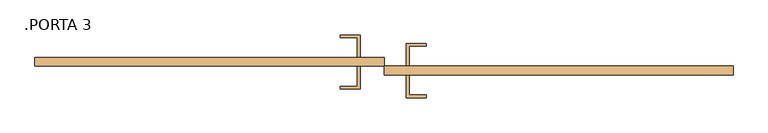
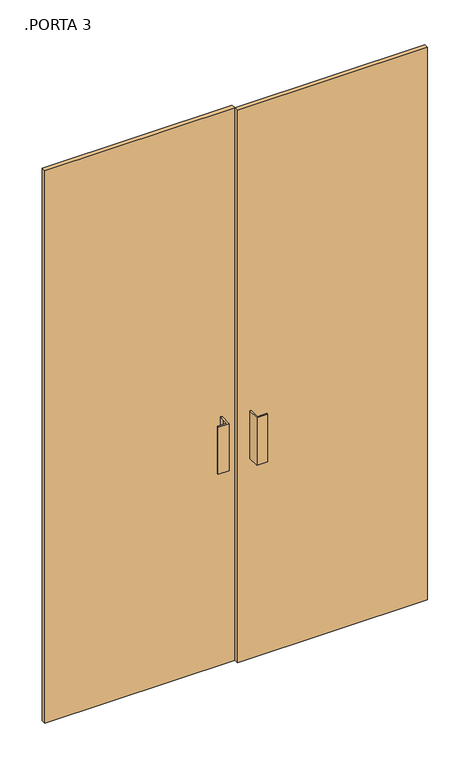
"""IFC4 building model written with IfcOpenShell, lengths in millimetres: door geometry, Parede cortina com vidro duplo CORRER : .PORTA 3."""

from ifc_helpers import new_model, si_unit, frame, origin, origin_with_axes, place, context, project, spatial, polyline, outline, extrude, source, transform, mapped, element, save


def porta_3_b58ad5ef(model_context):
    return source(origin(), model_context, "Body", "SweptSolid", [
        extrude(outline(polyline([(-771.8247711, 69.05), (1.5875, 69.05), (1.5875, 50.0), (-771.8247711, 50.0), (-771.8247711, 69.05)])), origin_with_axes(), (0.0, 0.0, 1.0), 2375.0),
        extrude(outline(polyline([(774.9997711, 30.95), (1.5875, 30.95), (1.5875, 50.0), (774.9997711, 50.0), (774.9997711, 30.95)])), origin_with_axes(), (0.0, 0.0, 1.0), 2375.0),
        extrude(outline(polyline([(-50.8, 119.85), (-50.8, 69.05), (-57.15, 69.05), (-57.15, 113.5), (-95.25, 113.5), (-95.25, 119.85), (-50.8, 119.85)])), frame((0.0, 0.0, 863.6), z_axis=(0.0, 0.0, 1.0), x_axis=(1.0, 0.0, 0.0)), (0.0, 0.0, 1.0), 203.2),
        extrude(outline(polyline([(50.8, 100.8), (95.25, 100.8), (95.25, 94.45), (57.15, 94.45), (57.15, 50.0), (50.8, 50.0), (50.8, 100.8)])), frame((0.0, 0.0, 863.6), z_axis=(0.0, 0.0, 1.0), x_axis=(1.0, 0.0, 0.0)), (0.0, 0.0, 1.0), 203.2),
        extrude(outline(polyline([(-50.8, -0.8), (-95.25, -0.8), (-95.25, 5.55), (-57.15, 5.55), (-57.15, 30.95), (-57.15, 50.0), (-50.8, 50.0), (-50.8, -0.8)])), frame((0.0, 0.0, 863.6), z_axis=(0.0, 0.0, 1.0), x_axis=(1.0, 0.0, 0.0)), (0.0, 0.0, 1.0), 203.2),
        extrude(outline(polyline([(50.8, -19.85), (50.8, 30.95), (57.15, 30.95), (57.15, -13.5), (95.25, -13.5), (95.25, -19.85), (50.8, -19.85)])), frame((0.0, 0.0, 863.6), z_axis=(0.0, 0.0, 1.0), x_axis=(1.0, 0.0, 0.0)), (0.0, 0.0, 1.0), 203.2),
    ])


if __name__ == "__main__":
    model = new_model("IFC4")
    model_context = context("Model", 3, world=origin())
    ifc_project = project(units=[si_unit("LENGTHUNIT", "METRE", prefix="MILLI")], contexts=[model_context])
    site = spatial("IfcSite", under=ifc_project)
    building = spatial("IfcBuilding", under=site)
    placement = place(None, origin())
    porta_3_shape = porta_3_b58ad5ef(model_context)
    element("IfcDoor", 1, ObjectType="Parede cortina com vidro duplo CORRER : .PORTA 3", at=placement, inside=building, context=model_context, shape_type="MappedRepresentation", body=[
        mapped(porta_3_shape, transform((0.0, 0.0, 0.0), x_axis=(1.0, 0.0, 0.0), y_axis=(0.0, 1.0, 0.0), z_axis=(0.0, 0.0, 1.0))),
    ])
    save(model, "model.ifc")
